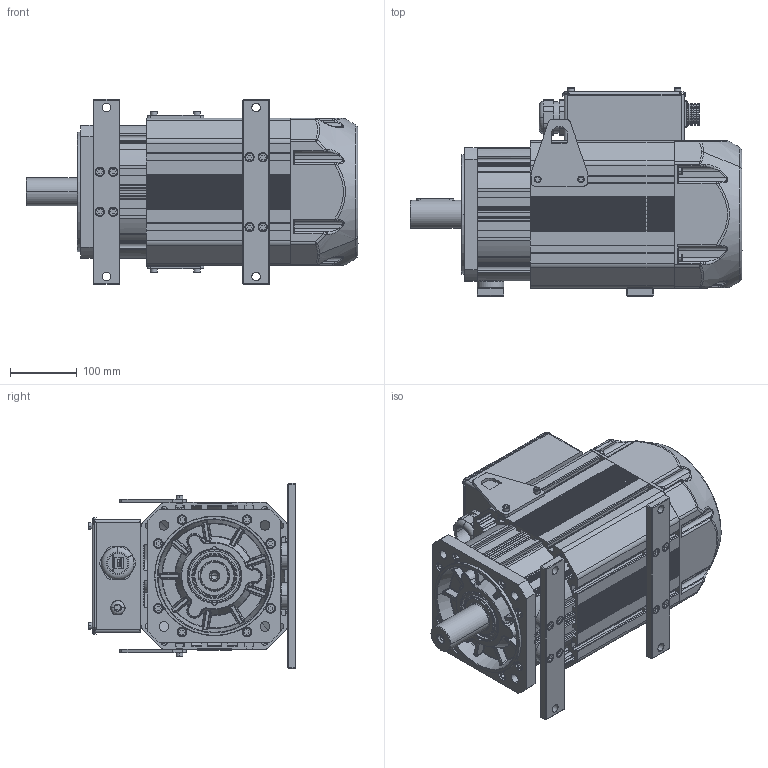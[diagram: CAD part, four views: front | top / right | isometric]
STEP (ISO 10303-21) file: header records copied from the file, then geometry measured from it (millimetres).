
FILE_DESCRIPTION((''),'2;1');
FILE_NAME('40BZ___SW0001','2025-08-25T08:33:24',('0109502'),(''),'CREO PARAMETRIC BY PTC INC, 2019080','CREO PARAMETRIC BY PTC INC, 2019080','');
FILE_SCHEMA(('CONFIG_CONTROL_DESIGN'));
Products named in the file (1): 40BZ___SW0001
Bounding box: 499 x 312.5 x 278.25 mm (x, y, z)
Surface area: 1562686.6 mm2 (no closed solid volume)
Topology: 0 solids, 163 shells, 3183 faces, 10733 edges, 7577 vertices
Faces by surface type: plane 1424, cylinder 1101, torus 262, bspline 192, cone 180, sphere 24
Entity records: 131759 total; most frequent: CARTESIAN_POINT 38517, DIRECTION 19819, ORIENTED_EDGE 17926, EDGE_CURVE 10713, VERTEX_POINT 7577, AXIS2_PLACEMENT_3D 6886, VECTOR 6047, LINE 6047
